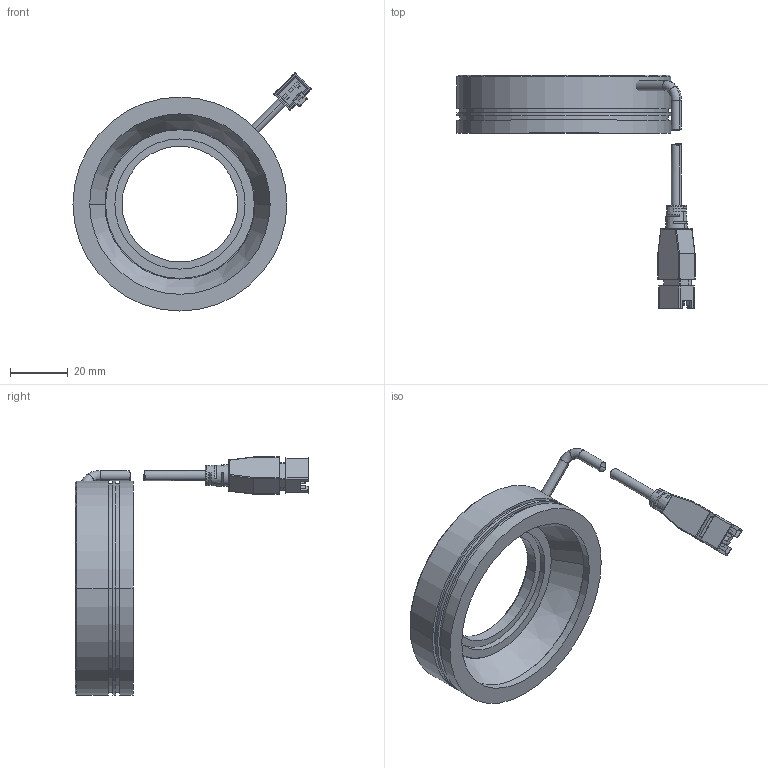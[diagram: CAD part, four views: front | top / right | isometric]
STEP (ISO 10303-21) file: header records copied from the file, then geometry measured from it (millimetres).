
FILE_DESCRIPTION((''),'2;1');
FILE_NAME('MV-LRDS-74-30_ASM','2019-09-19T',('rs-zhongwm'),(''),'PRO/ENGINEER BY PARAMETRIC TECHNOLOGY CORPORATION, 2010100','PRO/ENGINEER BY PARAMETRIC TECHNOLOGY CORPORATION, 2010100','');
FILE_SCHEMA(('CONFIG_CONTROL_DESIGN'));
Length unit declared in the file: millimetre
Products named in the file (5): PRT0012; PRT0013; PRT0014; ASM0007_ASM; MV-LRDS-74-30_ASM
Assembly tree (4 placements, depth 3):
  MV-LRDS-74-30_ASM
    PRT0012
    ASM0007_ASM
      PRT0013
      PRT0014
Bounding box: 82.34 x 80.8 x 82.34 mm (x, y, z)
Volume: 42117.3 mm3; surface area: 17525 mm2
Topology: 3 solids, 7 shells, 291 faces, 728 edges, 453 vertices
Faces by surface type: plane 142, cylinder 101, cone 20, torus 12, bspline 8, sphere 8
Entity records: 8955 total; most frequent: CARTESIAN_POINT 1870, DIRECTION 1506, ORIENTED_EDGE 1408, EDGE_CURVE 712, AXIS2_PLACEMENT_3D 544, VERTEX_POINT 453, VECTOR 418, LINE 418
